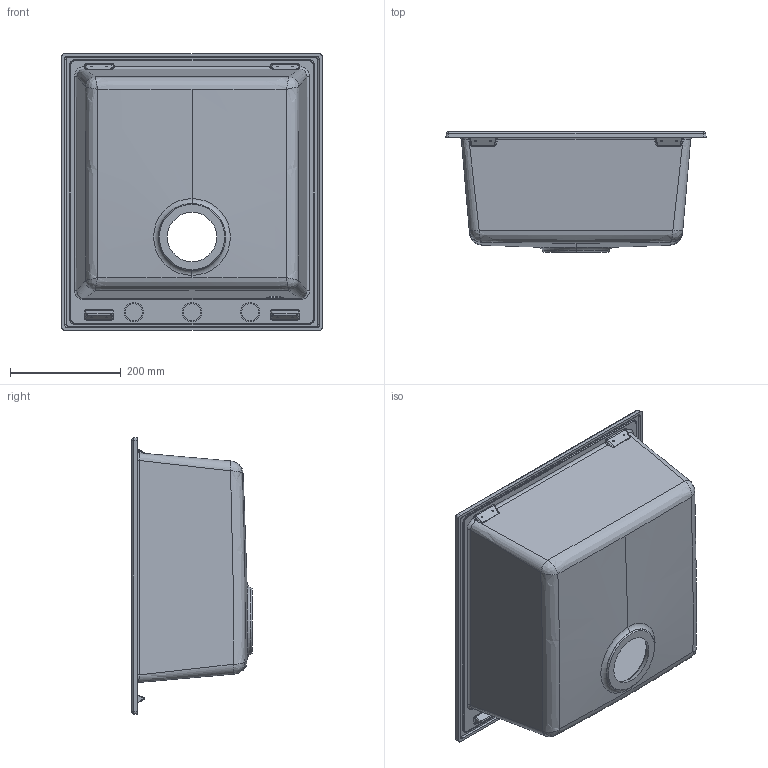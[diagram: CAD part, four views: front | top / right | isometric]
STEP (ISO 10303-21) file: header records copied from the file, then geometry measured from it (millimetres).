
FILE_DESCRIPTION (( 'STEP AP203' ), '1' );
FILE_NAME ('3d_step_q102.STEP', '2020-07-10T12:58:38', ( 'utente1' ), ( '' ), 'SwSTEP 2.0', 'SolidWorks 2013', '' );
FILE_SCHEMA (( 'CONFIG_CONTROL_DESIGN' ));
Length unit declared in the file: millimetre
Products named in the file (1): 3d_step_q102
Bounding box: 470 x 216.7 x 500 mm (x, y, z)
Volume: 4004599 mm3; surface area: 1008783.7 mm2
Topology: 1 solids, 1 shells, 272 faces, 630 edges, 364 vertices
Faces by surface type: cylinder 100, bspline 94, plane 50, cone 10, torus 10, sphere 8
Entity records: 12670 total; most frequent: CARTESIAN_POINT 7311, ORIENTED_EDGE 1220, DIRECTION 959, EDGE_CURVE 610, AXIS2_PLACEMENT_3D 389, VERTEX_POINT 360, EDGE_LOOP 296, ADVANCED_FACE 272
